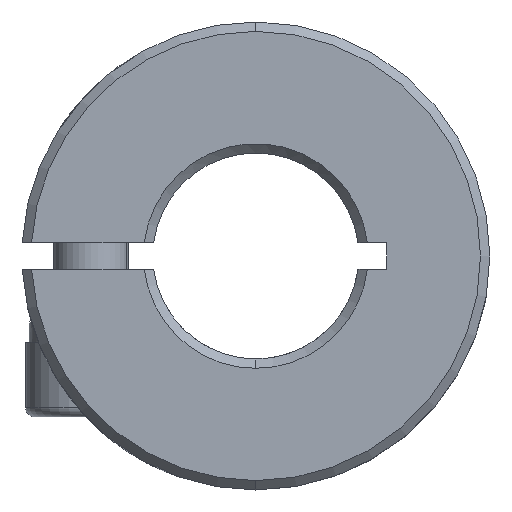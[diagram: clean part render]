
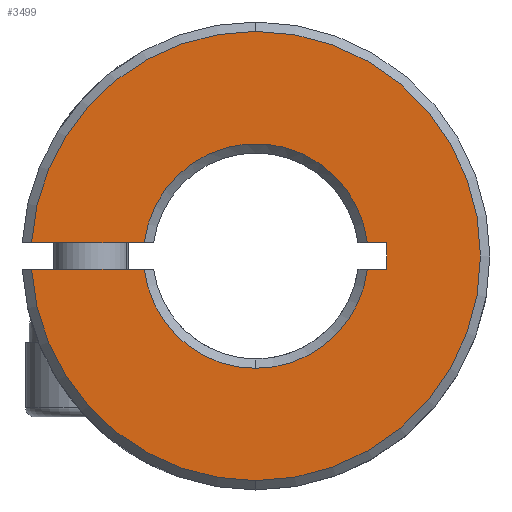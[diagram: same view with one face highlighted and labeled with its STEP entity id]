
A CAD part, front view. The second image highlights one B-rep face of the part: STEP entity #3499.
In plain terms, the highlighted planar face has unit normal (0, -1, 0).
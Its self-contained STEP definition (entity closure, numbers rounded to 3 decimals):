
#194 = DIRECTION ( 'NONE',  ( 0., 0., 1. ) ) ;
#203 = VECTOR ( 'NONE', #4032, 1000. ) ;
#227 = CARTESIAN_POINT ( 'NONE',  ( 0., 0.25, 0. ) ) ;
#232 = DIRECTION ( 'NONE',  ( 1., 0., 0. ) ) ;
#366 = AXIS2_PLACEMENT_3D ( 'NONE', #227, #1189, #6065 ) ;
#424 = EDGE_CURVE ( 'NONE', #6136, #554, #4178, .T. ) ;
#554 = VERTEX_POINT ( 'NONE', #5645 ) ;
#570 = CARTESIAN_POINT ( 'NONE',  ( 0., 0.25, 0. ) ) ;
#609 = CARTESIAN_POINT ( 'NONE',  ( -12.75, 0.25, 0.7 ) ) ;
#644 = CIRCLE ( 'NONE', #5942, 6. ) ;
#682 = EDGE_CURVE ( 'NONE', #2393, #3246, #4490, .T. ) ;
#722 = VECTOR ( 'NONE', #2543, 1000. ) ;
#752 = CARTESIAN_POINT ( 'NONE',  ( -500., 0.25, -13.609 ) ) ;
#764 = ORIENTED_EDGE ( 'NONE', *, *, #3733, .F. ) ;
#873 = LINE ( 'NONE', #5948, #722 ) ;
#899 = AXIS2_PLACEMENT_3D ( 'NONE', #752, #1762, #3675 ) ;
#901 = EDGE_CURVE ( 'NONE', #5897, #2111, #4413, .T. ) ;
#908 = ORIENTED_EDGE ( 'NONE', *, *, #682, .F. ) ;
#1013 = VERTEX_POINT ( 'NONE', #5635 ) ;
#1153 = VERTEX_POINT ( 'NONE', #5824 ) ;
#1189 = DIRECTION ( 'NONE',  ( 0., 1., 0. ) ) ;
#1268 = PLANE ( 'NONE',  #899 ) ;
#1300 = CIRCLE ( 'NONE', #4030, 12. ) ;
#1395 = EDGE_CURVE ( 'NONE', #3708, #1153, #873, .T. ) ;
#1407 = VECTOR ( 'NONE', #6306, 1000. ) ;
#1470 = EDGE_CURVE ( 'NONE', #2393, #2111, #2035, .T. ) ;
#1527 = EDGE_CURVE ( 'NONE', #1863, #1013, #644, .T. ) ;
#1575 = DIRECTION ( 'NONE',  ( 0., 1., 0. ) ) ;
#1594 = DIRECTION ( 'NONE',  ( 0., 0., 1. ) ) ;
#1618 = CARTESIAN_POINT ( 'NONE',  ( 0., 0.25, 0. ) ) ;
#1762 = DIRECTION ( 'NONE',  ( 0., 1., 0. ) ) ;
#1825 = CARTESIAN_POINT ( 'NONE',  ( 0., 0.25, 0. ) ) ;
#1863 = VERTEX_POINT ( 'NONE', #4100 ) ;
#2012 = ORIENTED_EDGE ( 'NONE', *, *, #4610, .T. ) ;
#2035 = CIRCLE ( 'NONE', #3611, 6. ) ;
#2111 = VERTEX_POINT ( 'NONE', #4339 ) ;
#2151 = DIRECTION ( 'NONE',  ( 0., -1., 0. ) ) ;
#2152 = DIRECTION ( 'NONE',  ( 0., 0., 1. ) ) ;
#2228 = ORIENTED_EDGE ( 'NONE', *, *, #901, .F. ) ;
#2389 = CARTESIAN_POINT ( 'NONE',  ( -12.75, 0.25, 0.7 ) ) ;
#2393 = VERTEX_POINT ( 'NONE', #5480 ) ;
#2423 = FACE_OUTER_BOUND ( 'NONE', #3904, .T. ) ;
#2470 = AXIS2_PLACEMENT_3D ( 'NONE', #1618, #5044, #194 ) ;
#2501 = ORIENTED_EDGE ( 'NONE', *, *, #1470, .T. ) ;
#2543 = DIRECTION ( 'NONE',  ( 1., 0., 0. ) ) ;
#2889 = CARTESIAN_POINT ( 'NONE',  ( -11.98, 0.25, -0.7 ) ) ;
#3068 = CARTESIAN_POINT ( 'NONE',  ( 0., 0.25, 0. ) ) ;
#3178 = LINE ( 'NONE', #5066, #4002 ) ;
#3195 = CARTESIAN_POINT ( 'NONE',  ( 0., 0.25, 0. ) ) ;
#3246 = VERTEX_POINT ( 'NONE', #5429 ) ;
#3335 = EDGE_CURVE ( 'NONE', #554, #3645, #5926, .T. ) ;
#3377 = EDGE_CURVE ( 'NONE', #3708, #1863, #4322, .T. ) ;
#3499 = ADVANCED_FACE ( 'NONE', ( #2423 ), #1268, .F. ) ;
#3611 = AXIS2_PLACEMENT_3D ( 'NONE', #3068, #1575, #1594 ) ;
#3629 = ORIENTED_EDGE ( 'NONE', *, *, #1527, .T. ) ;
#3645 = VERTEX_POINT ( 'NONE', #4883 ) ;
#3675 = DIRECTION ( 'NONE',  ( 0., 0., 1. ) ) ;
#3708 = VERTEX_POINT ( 'NONE', #4390 ) ;
#3733 = EDGE_CURVE ( 'NONE', #1153, #5897, #3178, .T. ) ;
#3889 = EDGE_CURVE ( 'NONE', #6136, #1013, #5233, .T. ) ;
#3904 = EDGE_LOOP ( 'NONE', ( #4184, #5620, #3629, #5813, #5009, #6060, #2012, #908, #2501, #2228, #764 ) ) ;
#4002 = VECTOR ( 'NONE', #2152, 1000. ) ;
#4030 = AXIS2_PLACEMENT_3D ( 'NONE', #1825, #5795, #4790 ) ;
#4032 = DIRECTION ( 'NONE',  ( -1., 0., 0. ) ) ;
#4100 = CARTESIAN_POINT ( 'NONE',  ( 0., 0.25, -6. ) ) ;
#4178 = CIRCLE ( 'NONE', #4258, 12. ) ;
#4184 = ORIENTED_EDGE ( 'NONE', *, *, #1395, .F. ) ;
#4258 = AXIS2_PLACEMENT_3D ( 'NONE', #3195, #2151, #5560 ) ;
#4322 = CIRCLE ( 'NONE', #366, 6. ) ;
#4339 = CARTESIAN_POINT ( 'NONE',  ( 5.959, 0.25, 0.7 ) ) ;
#4390 = CARTESIAN_POINT ( 'NONE',  ( 5.959, 0.25, -0.7 ) ) ;
#4413 = LINE ( 'NONE', #609, #203 ) ;
#4490 = LINE ( 'NONE', #2389, #1407 ) ;
#4610 = EDGE_CURVE ( 'NONE', #3645, #3246, #1300, .T. ) ;
#4782 = VECTOR ( 'NONE', #232, 1000. ) ;
#4790 = DIRECTION ( 'NONE',  ( 0., 0., 1. ) ) ;
#4883 = CARTESIAN_POINT ( 'NONE',  ( 0., 0.25, 12. ) ) ;
#4960 = DIRECTION ( 'NONE',  ( 0., 0., 1. ) ) ;
#5009 = ORIENTED_EDGE ( 'NONE', *, *, #424, .T. ) ;
#5044 = DIRECTION ( 'NONE',  ( 0., -1., 0. ) ) ;
#5066 = CARTESIAN_POINT ( 'NONE',  ( 7., 0.25, 0.7 ) ) ;
#5184 = CARTESIAN_POINT ( 'NONE',  ( -12.75, 0.25, -0.7 ) ) ;
#5233 = LINE ( 'NONE', #5184, #4782 ) ;
#5429 = CARTESIAN_POINT ( 'NONE',  ( -11.98, 0.25, 0.7 ) ) ;
#5480 = CARTESIAN_POINT ( 'NONE',  ( -5.959, 0.25, 0.7 ) ) ;
#5560 = DIRECTION ( 'NONE',  ( 0., 0., 1. ) ) ;
#5620 = ORIENTED_EDGE ( 'NONE', *, *, #3377, .T. ) ;
#5635 = CARTESIAN_POINT ( 'NONE',  ( -5.959, 0.25, -0.7 ) ) ;
#5645 = CARTESIAN_POINT ( 'NONE',  ( 0., 0.25, -12. ) ) ;
#5652 = CARTESIAN_POINT ( 'NONE',  ( 7., 0.25, 0.7 ) ) ;
#5795 = DIRECTION ( 'NONE',  ( 0., -1., 0. ) ) ;
#5813 = ORIENTED_EDGE ( 'NONE', *, *, #3889, .F. ) ;
#5824 = CARTESIAN_POINT ( 'NONE',  ( 7., 0.25, -0.7 ) ) ;
#5897 = VERTEX_POINT ( 'NONE', #5652 ) ;
#5926 = CIRCLE ( 'NONE', #2470, 12. ) ;
#5942 = AXIS2_PLACEMENT_3D ( 'NONE', #570, #6283, #4960 ) ;
#5948 = CARTESIAN_POINT ( 'NONE',  ( -12.75, 0.25, -0.7 ) ) ;
#6060 = ORIENTED_EDGE ( 'NONE', *, *, #3335, .T. ) ;
#6065 = DIRECTION ( 'NONE',  ( 0., 0., 1. ) ) ;
#6136 = VERTEX_POINT ( 'NONE', #2889 ) ;
#6283 = DIRECTION ( 'NONE',  ( 0., 1., 0. ) ) ;
#6306 = DIRECTION ( 'NONE',  ( -1., 0., 0. ) ) ;
